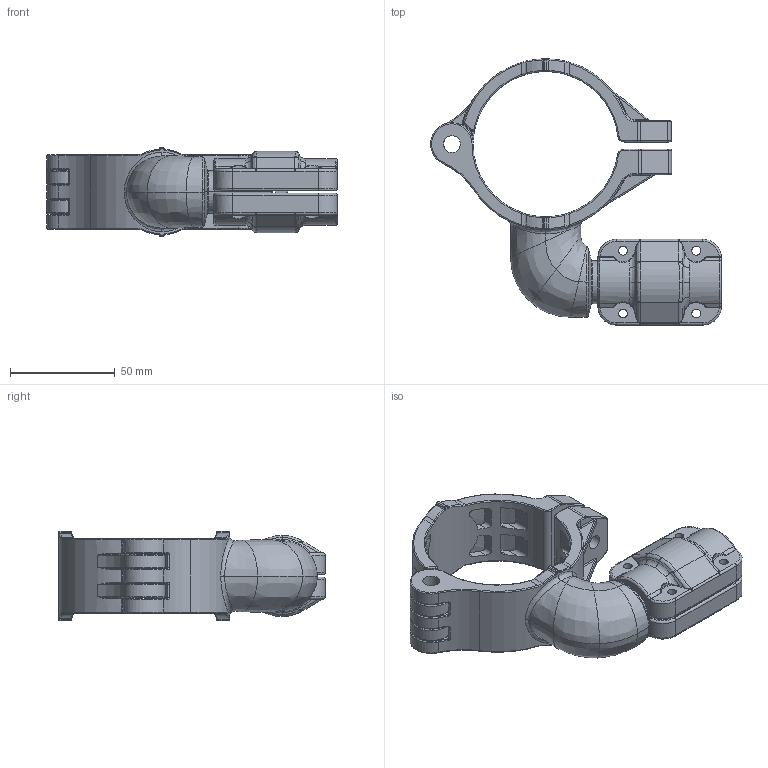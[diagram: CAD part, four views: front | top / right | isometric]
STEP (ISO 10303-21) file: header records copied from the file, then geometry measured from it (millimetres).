
FILE_DESCRIPTION((''),'2;1');
FILE_NAME('2015611099_ASM_2_ASM','2017-05-15T',('Administrator'),(''),'PRO/ENGINEER BY PARAMETRIC TECHNOLOGY CORPORATION, 2009360','PRO/ENGINEER BY PARAMETRIC TECHNOLOGY CORPORATION, 2009360','');
FILE_SCHEMA(('AUTOMOTIVE_DESIGN_CC2 { 1 2 10303 214 -1 1 5 2 }'));
Length unit declared in the file: millimetre
Products named in the file (8): 2017_6110_00_00_1_1; 2016_6210_00_01_1_1; 2016611000_ASM_5_ASM_1_ASM; 2016611000_ASM_ASM_1_ASM; 201510020000_38_1; 201510020001_10_1; 2015100200_ASM_1_ASM; 2015611099_ASM_2_ASM
Assembly tree (7 placements, depth 4):
  2015611099_ASM_2_ASM
    2016611000_ASM_ASM_1_ASM
      2016611000_ASM_5_ASM_1_ASM
        2017_6110_00_00_1_1
        2016_6210_00_01_1_1
    2015100200_ASM_1_ASM
      201510020000_38_1
      201510020001_10_1
Bounding box: 138.88 x 127.14 x 42.94 mm (x, y, z)
Volume: 133479.9 mm3; surface area: 59319.8 mm2
Topology: 4 solids, 10 shells, 981 faces, 2423 edges, 1453 vertices
Faces by surface type: cylinder 353, bspline 271, torus 175, plane 142, sphere 24, cone 16
Entity records: 50509 total; most frequent: CARTESIAN_POINT 22208, ORIENTED_EDGE 4780, DIRECTION 3932, EDGE_CURVE 2390, PRESENTATION_STYLE_ASSIGNMENT 1886, STYLED_ITEM 1886, AXIS2_PLACEMENT_3D 1659, CURVE_STYLE 1520
